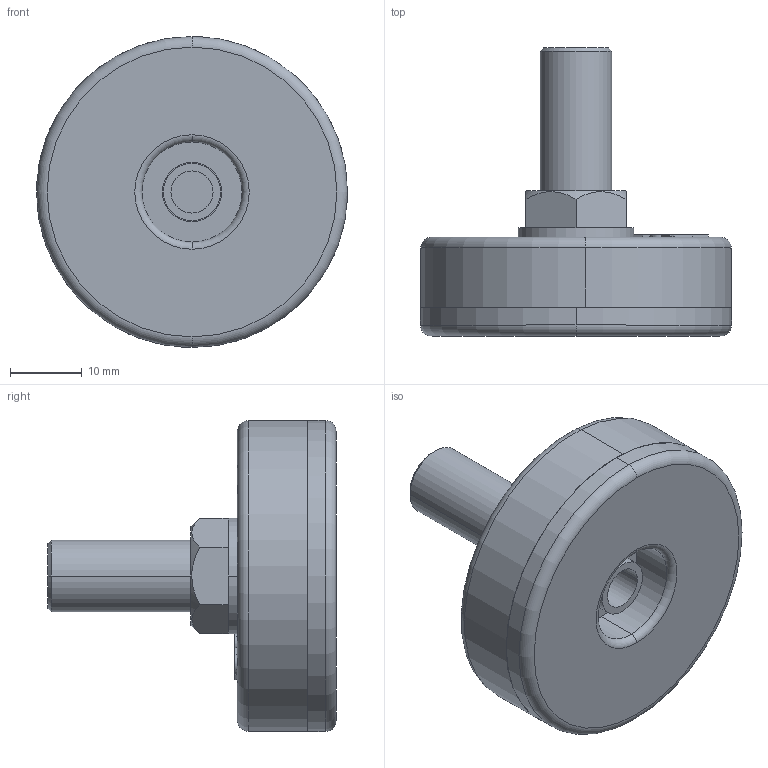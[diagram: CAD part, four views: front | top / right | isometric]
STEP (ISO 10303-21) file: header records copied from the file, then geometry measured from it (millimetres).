
FILE_DESCRIPTION (( 'STEP AP203' ), '1' );
FILE_NAME ('R-40-1020-TPU.STEP', '2020-09-11T02:22:40', ( '' ), ( '' ), 'SwSTEP 2.0', 'SolidWorks 2016', '' );
FILE_SCHEMA (( 'CONFIG_CONTROL_DESIGN' ));
Length unit declared in the file: millimetre
Products named in the file (4): S倰覃誹褐_40菁菜; S倰覃誹褐_40裔赽; 穩諉蹟裝M10炵蹈_M10X20; R-40-1020-TPU
Assembly tree (3 placements, depth 2):
  R-40-1020-TPU
    S倰覃誹褐_40菁菜
    S倰覃誹褐_40裔赽
    穩諉蹟裝M10炵蹈_M10X20
Bounding box: 43.5 x 40.3 x 43.5 mm (x, y, z)
Volume: 12087.8 mm3; surface area: 12879.3 mm2
Topology: 3 solids, 3 shells, 121 faces, 290 edges, 190 vertices
Faces by surface type: plane 69, cylinder 28, bspline 12, torus 8, cone 4
Entity records: 4790 total; most frequent: CARTESIAN_POINT 1559, DIRECTION 580, ORIENTED_EDGE 580, EDGE_CURVE 290, AXIS2_PLACEMENT_3D 207, VERTEX_POINT 190, VECTOR 166, LINE 166
